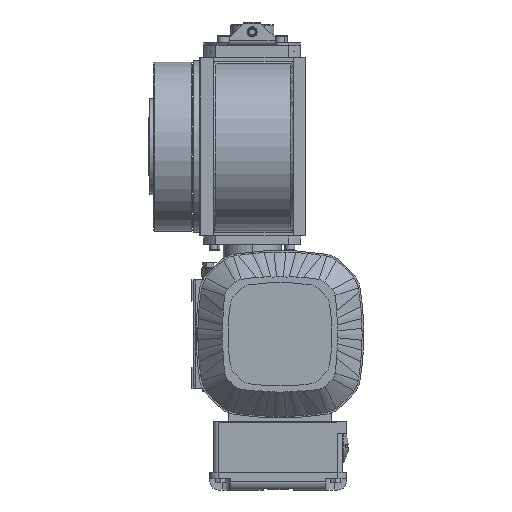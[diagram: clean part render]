
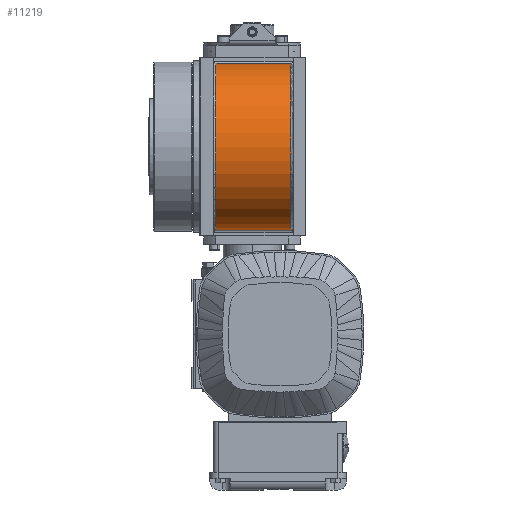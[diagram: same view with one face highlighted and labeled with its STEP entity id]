
A CAD part, left-side view. The second image highlights one B-rep face of the part: STEP entity #11219.
In plain terms, the highlighted cylindrical face has radius 69 mm (diameter 138 mm), a partial arc.
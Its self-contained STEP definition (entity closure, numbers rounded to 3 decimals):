
#1 = CARTESIAN_POINT ( 'NONE',  ( -42.511, -53.238, -28.281 ) ) ;
#1136 = AXIS2_PLACEMENT_3D ( 'NONE', #40018, #5700, #22896 ) ;
#4019 = VERTEX_POINT ( 'NONE', #1 ) ;
#4895 = VERTEX_POINT ( 'NONE', #33234 ) ;
#4916 = ORIENTED_EDGE ( 'NONE', *, *, #30072, .T. ) ;
#5278 = VECTOR ( 'NONE', #10208, 1000. ) ;
#5700 = DIRECTION ( 'NONE',  ( 0., -1., 0. ) ) ;
#7236 = CIRCLE ( 'NONE', #23900, 69. ) ;
#7358 = VECTOR ( 'NONE', #37031, 1000. ) ;
#8739 = CIRCLE ( 'NONE', #37316, 69. ) ;
#9408 = CARTESIAN_POINT ( 'NONE',  ( -42.511, -53.238, 109.5 ) ) ;
#10208 = DIRECTION ( 'NONE',  ( 0., 1., 0. ) ) ;
#11219 = ADVANCED_FACE ( 'NONE', ( #15084 ), #16179, .T. ) ;
#13966 = LINE ( 'NONE', #36683, #5278 ) ;
#14307 = CARTESIAN_POINT ( 'NONE',  ( -42.511, 10.762, -28.281 ) ) ;
#15084 = FACE_OUTER_BOUND ( 'NONE', #43268, .T. ) ;
#16179 = CYLINDRICAL_SURFACE ( 'NONE', #1136, 69. ) ;
#18503 = EDGE_CURVE ( 'NONE', #4019, #24042, #8739, .T. ) ;
#20704 = DIRECTION ( 'NONE',  ( 0., -1., 0. ) ) ;
#21068 = CARTESIAN_POINT ( 'NONE',  ( -38.624, 8.762, 40.609 ) ) ;
#22896 = DIRECTION ( 'NONE',  ( 0., 0., -1. ) ) ;
#23900 = AXIS2_PLACEMENT_3D ( 'NONE', #21068, #20704, #38198 ) ;
#24042 = VERTEX_POINT ( 'NONE', #9408 ) ;
#27950 = ORIENTED_EDGE ( 'NONE', *, *, #52098, .T. ) ;
#29605 = VERTEX_POINT ( 'NONE', #63440 ) ;
#30072 = EDGE_CURVE ( 'NONE', #24042, #4895, #13966, .T. ) ;
#33234 = CARTESIAN_POINT ( 'NONE',  ( -42.511, 8.762, 109.5 ) ) ;
#35239 = EDGE_CURVE ( 'NONE', #4895, #29605, #7236, .T. ) ;
#36683 = CARTESIAN_POINT ( 'NONE',  ( -42.511, 10.762, 109.5 ) ) ;
#37031 = DIRECTION ( 'NONE',  ( 0., -1., 0. ) ) ;
#37316 = AXIS2_PLACEMENT_3D ( 'NONE', #39872, #68212, #62579 ) ;
#37648 = ORIENTED_EDGE ( 'NONE', *, *, #35239, .T. ) ;
#38198 = DIRECTION ( 'NONE',  ( 0., 0., 1. ) ) ;
#39872 = CARTESIAN_POINT ( 'NONE',  ( -38.624, -53.238, 40.609 ) ) ;
#40018 = CARTESIAN_POINT ( 'NONE',  ( -38.624, 10.762, 40.609 ) ) ;
#43268 = EDGE_LOOP ( 'NONE', ( #53150, #4916, #37648, #27950 ) ) ;
#52098 = EDGE_CURVE ( 'NONE', #29605, #4019, #65358, .T. ) ;
#53150 = ORIENTED_EDGE ( 'NONE', *, *, #18503, .T. ) ;
#62579 = DIRECTION ( 'NONE',  ( 0., 0., 1. ) ) ;
#63440 = CARTESIAN_POINT ( 'NONE',  ( -42.511, 8.762, -28.281 ) ) ;
#65358 = LINE ( 'NONE', #14307, #7358 ) ;
#68212 = DIRECTION ( 'NONE',  ( 0., 1., 0. ) ) ;
